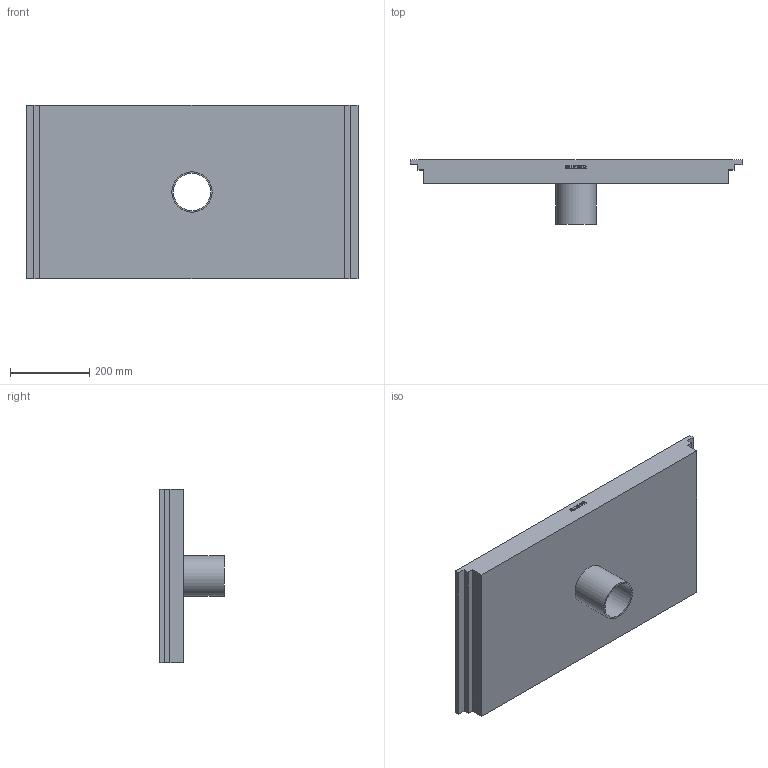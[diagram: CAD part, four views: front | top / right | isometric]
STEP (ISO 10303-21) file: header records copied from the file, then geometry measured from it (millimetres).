
FILE_DESCRIPTION((''),'2;1');
FILE_NAME('I:\WATTS\3D_CAD\3D_CAD_Models\Blucher_Drains\BKC_KitchenChannels\BKC-200\WebsiteFiles\3D\STEP\BKC-204-2.stp','2009-11-30T08:53:02',('menesek'),(''),'Autodesk Inventor 2010','Autodesk Inventor 2010','');
FILE_SCHEMA(('AUTOMOTIVE_DESIGN { 1 0 10303 214 1 1 1 1 }'));
Length unit declared in the file: inch
Products named in the file (1): BKC-204-2
Bounding box: 837 x 163 x 437 mm (x, y, z)
Volume: 3623808.5 mm3; surface area: 1059985.4 mm2
Topology: 1 solids, 1 shells, 142 faces, 385 edges, 257 vertices
Faces by surface type: plane 95, bspline 45, cylinder 2
Full cylindrical faces by diameter (mm): 93.6 x1, 101.6 x1
Entity records: 4799 total; most frequent: CARTESIAN_POINT 1501, ORIENTED_EDGE 764, DIRECTION 492, EDGE_CURVE 382, VECTOR 288, LINE 288, VERTEX_POINT 256, EDGE_LOOP 158
